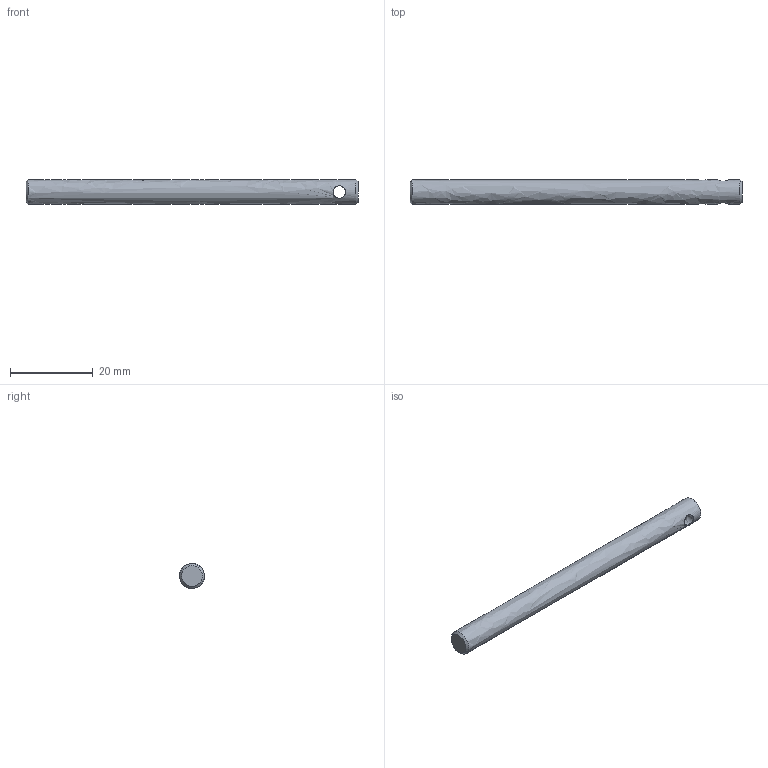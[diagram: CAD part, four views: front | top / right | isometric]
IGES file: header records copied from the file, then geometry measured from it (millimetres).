
Start section: START RECORD GO HERE.
Global section: file name: AXE.igs; native system: IBM CATIA IGES - CATIA Version 5 Release 18 ; preprocessor: CATIA Version 5 Release 18 ; author: Propriétaire; organization: FUJITSU-79916BB; date: 20090111.155310; units: millimetre
Bounding box: 80 x 6 x 6 mm (x, y, z)
Surface area: 1591 mm2 (no closed solid volume)
Topology: 0 solids, 0 shells, 10 faces, 52 edges, 52 vertices
Faces by surface type: revolution 8, plane 2
